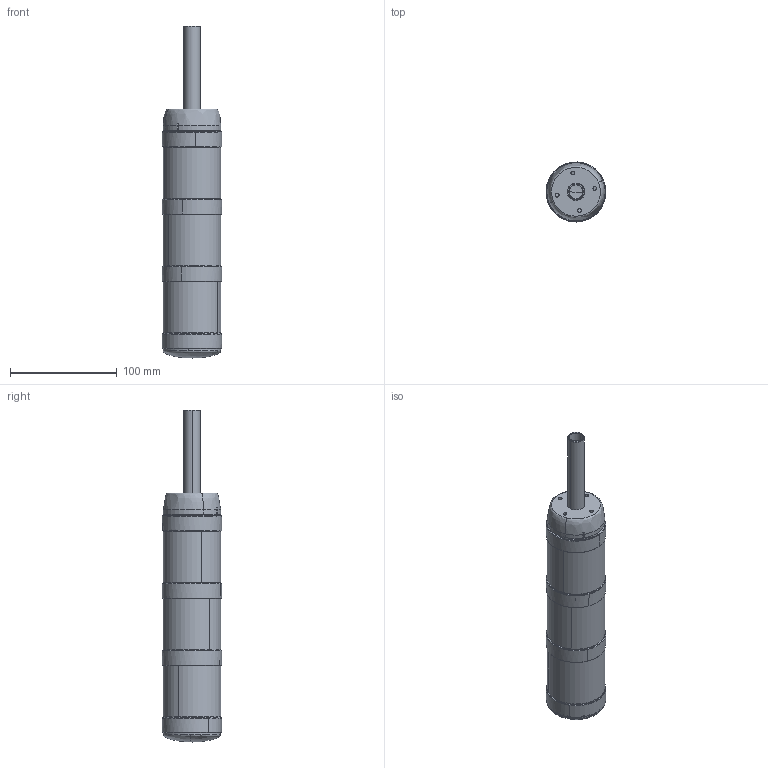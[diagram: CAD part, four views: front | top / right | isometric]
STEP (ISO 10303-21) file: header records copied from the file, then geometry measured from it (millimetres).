
FILE_DESCRIPTION (( 'STEP AP214' ), '1' );
FILE_NAME ('22093xx3xxx-outline.STEP', '2007-07-04T06:56:12', ( ' ' ), ( ' ' ), 'SwSTEP 2.0', 'SolidWorks 2007', '' );
FILE_SCHEMA (( 'AUTOMOTIVE_DESIGN' ));
Length unit declared in the file: millimetre
Products named in the file (1): 22093xx3xxx-outline
Bounding box: 55.93 x 55.98 x 311.35 mm (x, y, z)
Surface area: 59470.5 mm2 (no closed solid volume)
Topology: 0 solids, 19 shells, 129 faces, 659 edges, 538 vertices
Faces by surface type: plane 59, bspline 35, cylinder 23, cone 12
Entity records: 8229 total; most frequent: CARTESIAN_POINT 1901, DIRECTION 998, ORIENTED_EDGE 876, EDGE_CURVE 657, VERTEX_POINT 538, VECTOR 346, LINE 346, AXIS2_PLACEMENT_3D 326
